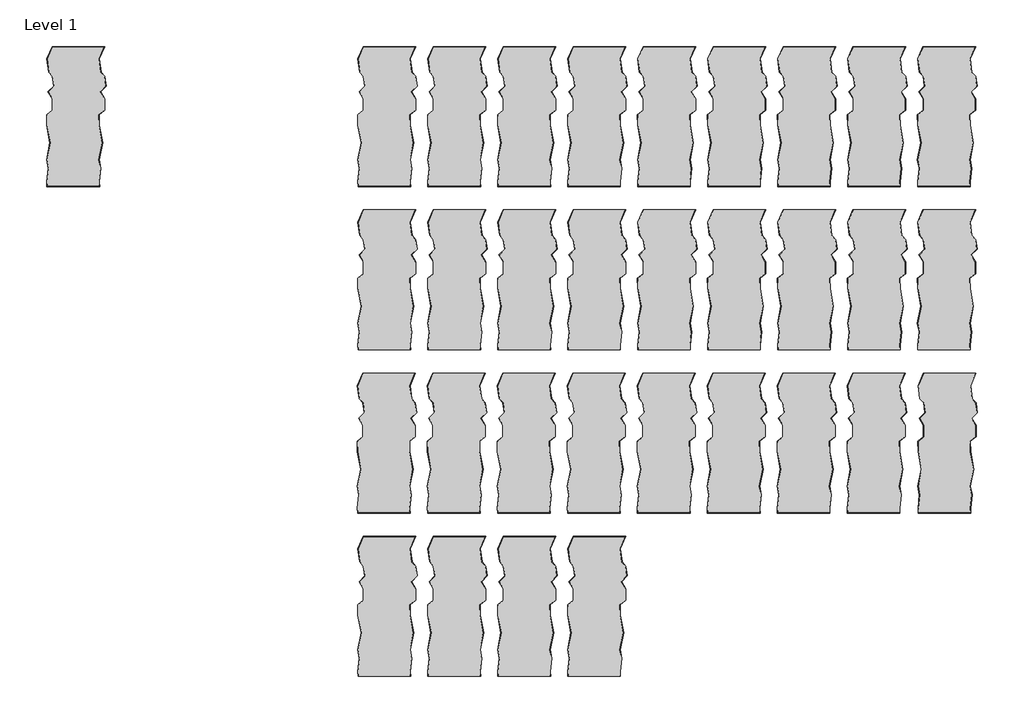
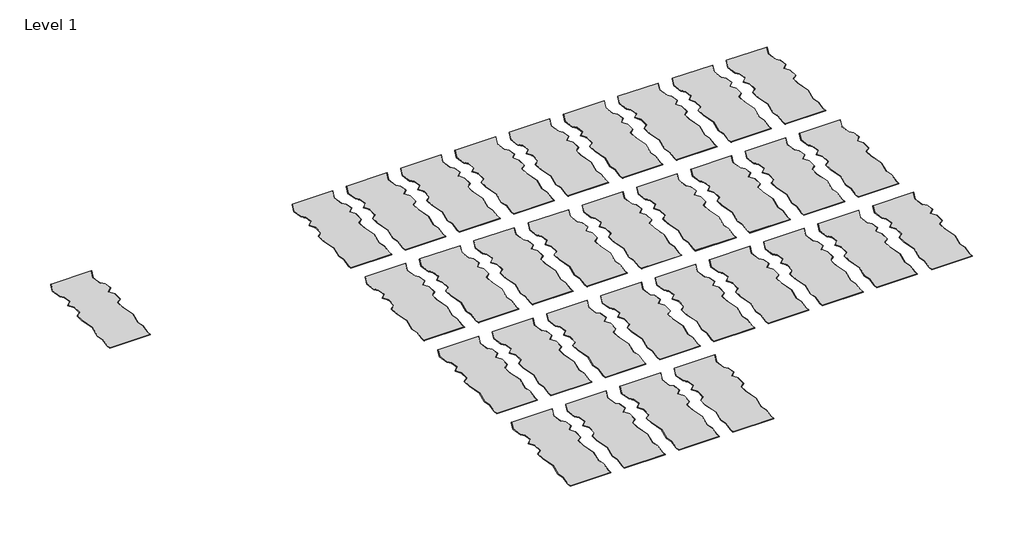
# One storey: 32 proxies.
"""IFC4 building model written with IfcOpenShell, lengths in millimetres."""

from ifc_helpers import new_model, si_unit, origin, place, context, project, spatial, transform, mapped, element, save
from components import proxy_101_frost_12_mm_5003fc06

model = new_model("IFC4")

# Units and contexts
model_context = context("Model", 3, world=origin())
ifc_project = project(units=[si_unit("LENGTHUNIT", "METRE", prefix="MILLI")], contexts=[model_context])

# Site, building, storey
site = spatial("IfcSite", under=ifc_project)
building = spatial("IfcBuilding", under=site)
storey = spatial("IfcBuildingStorey", under=building, Name="Level 1", Elevation=0.0)

# Proxies
placement = place(None, origin())
proxy_101_frost_12_mm_shape = proxy_101_frost_12_mm_5003fc06(model_context)
element("IfcBuildingElementProxy", 1, Name="Wall-Panel-Kirei_USA-EchoLine-Crackle_Panels : 108 Sunshine - 12 mm", ObjectType="Wall-Panel-Kirei_USA-EchoLine-Crackle_Panels : 108 Sunshine - 12 mm", at=placement, inside=storey, context=model_context, shape_type="MappedRepresentation", body=[
    mapped(proxy_101_frost_12_mm_shape, transform((1981.2, -21640.8, 0.0), x_axis=(1.0, 0.0, 0.0), y_axis=(0.0, 1.0, 0.0), z_axis=(0.0, 0.0, 1.0))),
])
element("IfcBuildingElementProxy", 2, Name="Wall-Panel-Kirei_USA-EchoLine-Crackle_Panels : 167 Cinnamon - 12 mm", ObjectType="Wall-Panel-Kirei_USA-EchoLine-Crackle_Panels : 167 Cinnamon - 12 mm", at=placement, inside=storey, context=model_context, shape_type="MappedRepresentation", body=[
    mapped(proxy_101_frost_12_mm_shape, transform((4724.4, -21640.8, 0.0), x_axis=(1.0, 0.0, 0.0), y_axis=(0.0, 1.0, 0.0), z_axis=(0.0, 0.0, 1.0))),
])
element("IfcBuildingElementProxy", 3, Name="Wall-Panel-Kirei_USA-EchoLine-Crackle_Panels : 274 Orchid - 12 mm", ObjectType="Wall-Panel-Kirei_USA-EchoLine-Crackle_Panels : 274 Orchid - 12 mm", at=placement, inside=storey, context=model_context, shape_type="MappedRepresentation", body=[
    mapped(proxy_101_frost_12_mm_shape, transform((8839.2, -21640.8, 0.0), x_axis=(1.0, 0.0, 0.0), y_axis=(0.0, 1.0, 0.0), z_axis=(0.0, 0.0, 1.0))),
])
element("IfcBuildingElementProxy", 4, Name="Wall-Panel-Kirei_USA-EchoLine-Crackle_Panels : 295 Mandarin - 12 mm", ObjectType="Wall-Panel-Kirei_USA-EchoLine-Crackle_Panels : 295 Mandarin - 12 mm", at=placement, inside=storey, context=model_context, shape_type="MappedRepresentation", body=[
    mapped(proxy_101_frost_12_mm_shape, transform((11582.4, -21640.8, 0.0), x_axis=(1.0, 0.0, 0.0), y_axis=(0.0, 1.0, 0.0), z_axis=(0.0, 0.0, 1.0))),
])
element("IfcBuildingElementProxy", 5, Name="Wall-Panel-Kirei_USA-EchoLine-Crackle_Panels : 330 Ivy - 12 mm", ObjectType="Wall-Panel-Kirei_USA-EchoLine-Crackle_Panels : 330 Ivy - 12 mm", at=placement, inside=storey, context=model_context, shape_type="MappedRepresentation", body=[
    mapped(proxy_101_frost_12_mm_shape, transform((609.6, -24841.2, 0.0), x_axis=(1.0, 0.0, 0.0), y_axis=(0.0, 1.0, 0.0), z_axis=(0.0, 0.0, 1.0))),
])
element("IfcBuildingElementProxy", 6, Name="Wall-Panel-Kirei_USA-EchoLine-Crackle_Panels : 338 Jade - 12 mm", ObjectType="Wall-Panel-Kirei_USA-EchoLine-Crackle_Panels : 338 Jade - 12 mm", at=placement, inside=storey, context=model_context, shape_type="MappedRepresentation", body=[
    mapped(proxy_101_frost_12_mm_shape, transform((1981.2, -24841.2, 0.0), x_axis=(1.0, 0.0, 0.0), y_axis=(0.0, 1.0, 0.0), z_axis=(0.0, 0.0, 1.0))),
])
element("IfcBuildingElementProxy", 7, Name="Wall-Panel-Kirei_USA-EchoLine-Crackle_Panels : 349 Vineyard - 12 mm", ObjectType="Wall-Panel-Kirei_USA-EchoLine-Crackle_Panels : 349 Vineyard - 12 mm", at=placement, inside=storey, context=model_context, shape_type="MappedRepresentation", body=[
    mapped(proxy_101_frost_12_mm_shape, transform((3352.8, -24841.2, 0.0), x_axis=(1.0, 0.0, 0.0), y_axis=(0.0, 1.0, 0.0), z_axis=(0.0, 0.0, 1.0))),
])
element("IfcBuildingElementProxy", 8, Name="Wall-Panel-Kirei_USA-EchoLine-Crackle_Panels : 551 Duck Egg - 12 mm", ObjectType="Wall-Panel-Kirei_USA-EchoLine-Crackle_Panels : 551 Duck Egg - 12 mm", at=placement, inside=storey, context=model_context, shape_type="MappedRepresentation", body=[
    mapped(proxy_101_frost_12_mm_shape, transform((10202.3869584, -28041.6, 0.0), x_axis=(1.0, 0.0, 0.0), y_axis=(0.0, 1.0, 0.0), z_axis=(0.0, 0.0, 1.0))),
])
element("IfcBuildingElementProxy", 9, Name="Wall-Panel-Kirei_USA-EchoLine-Crackle_Panels : 579 Pistachio - 12 mm", ObjectType="Wall-Panel-Kirei_USA-EchoLine-Crackle_Panels : 579 Pistachio - 12 mm", at=placement, inside=storey, context=model_context, shape_type="MappedRepresentation", body=[
    mapped(proxy_101_frost_12_mm_shape, transform((11590.8130416, -28041.6, 0.0), x_axis=(1.0, 0.0, 0.0), y_axis=(0.0, 1.0, 0.0), z_axis=(0.0, 0.0, 1.0))),
])
element("IfcBuildingElementProxy", 10, Name="Wall-Panel-Kirei_USA-EchoLine-Crackle_Panels : 633 Pacific - 12 mm", ObjectType="Wall-Panel-Kirei_USA-EchoLine-Crackle_Panels : 633 Pacific - 12 mm", at=placement, inside=storey, context=model_context, shape_type="MappedRepresentation", body=[
    mapped(proxy_101_frost_12_mm_shape, transform((1981.2, -31242.0, 0.0), x_axis=(1.0, 0.0, 0.0), y_axis=(0.0, 1.0, 0.0), z_axis=(0.0, 0.0, 1.0))),
])
element("IfcBuildingElementProxy", 11, Name="Wall-Panel-Kirei_USA-EchoLine-Crackle_Panels : 660 Coronet - 12 mm", ObjectType="Wall-Panel-Kirei_USA-EchoLine-Crackle_Panels : 660 Coronet - 12 mm", at=placement, inside=storey, context=model_context, shape_type="MappedRepresentation", body=[
    mapped(proxy_101_frost_12_mm_shape, transform((3352.8, -31242.0, 0.0), x_axis=(1.0, 0.0, 0.0), y_axis=(0.0, 1.0, 0.0), z_axis=(0.0, 0.0, 1.0))),
])
element("IfcBuildingElementProxy", 12, Name="Wall-Panel-Kirei_USA-EchoLine-Crackle_Panels : 101 Frost - 12 mm", ObjectType="Wall-Panel-Kirei_USA-EchoLine-Crackle_Panels : 101 Frost - 12 mm", at=placement, inside=storey, context=model_context, shape_type="MappedRepresentation", body=[
    mapped(proxy_101_frost_12_mm_shape, transform((609.6, -21640.8, 0.0), x_axis=(1.0, 0.0, 0.0), y_axis=(0.0, 1.0, 0.0), z_axis=(0.0, 0.0, 1.0))),
])
element("IfcBuildingElementProxy", 13, Name="Wall-Panel-Kirei_USA-EchoLine-Crackle_Panels : 101 Frost - 12 mm", ObjectType="Wall-Panel-Kirei_USA-EchoLine-Crackle_Panels : 101 Frost - 12 mm", at=placement, inside=storey, context=model_context, shape_type="MappedRepresentation", body=[
    mapped(proxy_101_frost_12_mm_shape, transform((-5486.4, -21640.8, 0.0), x_axis=(1.0, 0.0, 0.0), y_axis=(0.0, 1.0, 0.0), z_axis=(0.0, 0.0, 1.0))),
])
element("IfcBuildingElementProxy", 14, Name="Wall-Panel-Kirei_USA-EchoLine-Crackle_Panels : 124 Ochre - 12 mm", ObjectType="Wall-Panel-Kirei_USA-EchoLine-Crackle_Panels : 124 Ochre - 12 mm", at=placement, inside=storey, context=model_context, shape_type="MappedRepresentation", body=[
    mapped(proxy_101_frost_12_mm_shape, transform((3352.8, -21640.8, 0.0), x_axis=(1.0, 0.0, 0.0), y_axis=(0.0, 1.0, 0.0), z_axis=(0.0, 0.0, 1.0))),
])
element("IfcBuildingElementProxy", 15, Name="Wall-Panel-Kirei_USA-EchoLine-Crackle_Panels : 193 Rouge - 12 mm", ObjectType="Wall-Panel-Kirei_USA-EchoLine-Crackle_Panels : 193 Rouge - 12 mm", at=placement, inside=storey, context=model_context, shape_type="MappedRepresentation", body=[
    mapped(proxy_101_frost_12_mm_shape, transform((6096.0, -21640.8, 0.0), x_axis=(1.0, 0.0, 0.0), y_axis=(0.0, 1.0, 0.0), z_axis=(0.0, 0.0, 1.0))),
])
element("IfcBuildingElementProxy", 16, Name="Wall-Panel-Kirei_USA-EchoLine-Crackle_Panels : 269 Wine - 12 mm", ObjectType="Wall-Panel-Kirei_USA-EchoLine-Crackle_Panels : 269 Wine - 12 mm", at=placement, inside=storey, context=model_context, shape_type="MappedRepresentation", body=[
    mapped(proxy_101_frost_12_mm_shape, transform((7467.6, -21640.8, 0.0), x_axis=(1.0, 0.0, 0.0), y_axis=(0.0, 1.0, 0.0), z_axis=(0.0, 0.0, 1.0))),
])
element("IfcBuildingElementProxy", 17, Name="Wall-Panel-Kirei_USA-EchoLine-Crackle_Panels : 276 Lavender - 12 mm", ObjectType="Wall-Panel-Kirei_USA-EchoLine-Crackle_Panels : 276 Lavender - 12 mm", at=placement, inside=storey, context=model_context, shape_type="MappedRepresentation", body=[
    mapped(proxy_101_frost_12_mm_shape, transform((10210.8, -21640.8, 0.0), x_axis=(1.0, 0.0, 0.0), y_axis=(0.0, 1.0, 0.0), z_axis=(0.0, 0.0, 1.0))),
])
element("IfcBuildingElementProxy", 18, Name="Wall-Panel-Kirei_USA-EchoLine-Crackle_Panels : 365 Navy - 12 mm", ObjectType="Wall-Panel-Kirei_USA-EchoLine-Crackle_Panels : 365 Navy - 12 mm", at=placement, inside=storey, context=model_context, shape_type="MappedRepresentation", body=[
    mapped(proxy_101_frost_12_mm_shape, transform((4724.4, -24841.2, 0.0), x_axis=(1.0, 0.0, 0.0), y_axis=(0.0, 1.0, 0.0), z_axis=(0.0, 0.0, 1.0))),
])
element("IfcBuildingElementProxy", 19, Name="Wall-Panel-Kirei_USA-EchoLine-Crackle_Panels : 381 Lime Splice - 12 mm", ObjectType="Wall-Panel-Kirei_USA-EchoLine-Crackle_Panels : 381 Lime Splice - 12 mm", at=placement, inside=storey, context=model_context, shape_type="MappedRepresentation", body=[
    mapped(proxy_101_frost_12_mm_shape, transform((6096.0, -24841.2, 0.0), x_axis=(1.0, 0.0, 0.0), y_axis=(0.0, 1.0, 0.0), z_axis=(0.0, 0.0, 1.0))),
])
element("IfcBuildingElementProxy", 20, Name="Wall-Panel-Kirei_USA-EchoLine-Crackle_Panels : 384 Olive - 12 mm", ObjectType="Wall-Panel-Kirei_USA-EchoLine-Crackle_Panels : 384 Olive - 12 mm", at=placement, inside=storey, context=model_context, shape_type="MappedRepresentation", body=[
    mapped(proxy_101_frost_12_mm_shape, transform((7467.6, -24841.2, 0.0), x_axis=(1.0, 0.0, 0.0), y_axis=(0.0, 1.0, 0.0), z_axis=(0.0, 0.0, 1.0))),
])
element("IfcBuildingElementProxy", 21, Name="Wall-Panel-Kirei_USA-EchoLine-Crackle_Panels : 402 Pebble - 12 mm", ObjectType="Wall-Panel-Kirei_USA-EchoLine-Crackle_Panels : 402 Pebble - 12 mm", at=placement, inside=storey, context=model_context, shape_type="MappedRepresentation", body=[
    mapped(proxy_101_frost_12_mm_shape, transform((8839.2, -24841.2, 0.0), x_axis=(1.0, 0.0, 0.0), y_axis=(0.0, 1.0, 0.0), z_axis=(0.0, 0.0, 1.0))),
])
element("IfcBuildingElementProxy", 22, Name="Wall-Panel-Kirei_USA-EchoLine-Crackle_Panels : 442 Gray - 12 mm", ObjectType="Wall-Panel-Kirei_USA-EchoLine-Crackle_Panels : 442 Gray - 12 mm", at=placement, inside=storey, context=model_context, shape_type="MappedRepresentation", body=[
    mapped(proxy_101_frost_12_mm_shape, transform((10210.8, -24841.2, 0.0), x_axis=(1.0, 0.0, 0.0), y_axis=(0.0, 1.0, 0.0), z_axis=(0.0, 0.0, 1.0))),
])
element("IfcBuildingElementProxy", 23, Name="Wall-Panel-Kirei_USA-EchoLine-Crackle_Panels : 444 Smoke - 12 mm", ObjectType="Wall-Panel-Kirei_USA-EchoLine-Crackle_Panels : 444 Smoke - 12 mm", at=placement, inside=storey, context=model_context, shape_type="MappedRepresentation", body=[
    mapped(proxy_101_frost_12_mm_shape, transform((11582.4, -24841.2, 0.0), x_axis=(1.0, 0.0, 0.0), y_axis=(0.0, 1.0, 0.0), z_axis=(0.0, 0.0, 1.0))),
])
element("IfcBuildingElementProxy", 24, Name="Wall-Panel-Kirei_USA-EchoLine-Crackle_Panels : 447 Slate - 12 mm", ObjectType="Wall-Panel-Kirei_USA-EchoLine-Crackle_Panels : 447 Slate - 12 mm", at=placement, inside=storey, context=model_context, shape_type="MappedRepresentation", body=[
    mapped(proxy_101_frost_12_mm_shape, transform((601.1869584, -28041.6, 0.0), x_axis=(1.0, 0.0, 0.0), y_axis=(0.0, 1.0, 0.0), z_axis=(0.0, 0.0, 1.0))),
])
element("IfcBuildingElementProxy", 25, Name="Wall-Panel-Kirei_USA-EchoLine-Crackle_Panels : 454 Mushroom - 12 mm", ObjectType="Wall-Panel-Kirei_USA-EchoLine-Crackle_Panels : 454 Mushroom - 12 mm", at=placement, inside=storey, context=model_context, shape_type="MappedRepresentation", body=[
    mapped(proxy_101_frost_12_mm_shape, transform((1972.7869584, -28041.6, 0.0), x_axis=(1.0, 0.0, 0.0), y_axis=(0.0, 1.0, 0.0), z_axis=(0.0, 0.0, 1.0))),
])
element("IfcBuildingElementProxy", 26, Name="Wall-Panel-Kirei_USA-EchoLine-Crackle_Panels : 468 Vanilla - 12 mm", ObjectType="Wall-Panel-Kirei_USA-EchoLine-Crackle_Panels : 468 Vanilla - 12 mm", at=placement, inside=storey, context=model_context, shape_type="MappedRepresentation", body=[
    mapped(proxy_101_frost_12_mm_shape, transform((3344.3869584, -28041.6, 0.0), x_axis=(1.0, 0.0, 0.0), y_axis=(0.0, 1.0, 0.0), z_axis=(0.0, 0.0, 1.0))),
])
element("IfcBuildingElementProxy", 27, Name="Wall-Panel-Kirei_USA-EchoLine-Crackle_Panels : 487 Blush - 12 mm", ObjectType="Wall-Panel-Kirei_USA-EchoLine-Crackle_Panels : 487 Blush - 12 mm", at=placement, inside=storey, context=model_context, shape_type="MappedRepresentation", body=[
    mapped(proxy_101_frost_12_mm_shape, transform((4715.9869584, -28041.6, 0.0), x_axis=(1.0, 0.0, 0.0), y_axis=(0.0, 1.0, 0.0), z_axis=(0.0, 0.0, 1.0))),
])
element("IfcBuildingElementProxy", 28, Name="Wall-Panel-Kirei_USA-EchoLine-Crackle_Panels : 500 White - 12 mm", ObjectType="Wall-Panel-Kirei_USA-EchoLine-Crackle_Panels : 500 White - 12 mm", at=placement, inside=storey, context=model_context, shape_type="MappedRepresentation", body=[
    mapped(proxy_101_frost_12_mm_shape, transform((6087.5869584, -28041.6, 0.0), x_axis=(1.0, 0.0, 0.0), y_axis=(0.0, 1.0, 0.0), z_axis=(0.0, 0.0, 1.0))),
])
element("IfcBuildingElementProxy", 29, Name="Wall-Panel-Kirei_USA-EchoLine-Crackle_Panels : 542 Black - 12 mm", ObjectType="Wall-Panel-Kirei_USA-EchoLine-Crackle_Panels : 542 Black - 12 mm", at=placement, inside=storey, context=model_context, shape_type="MappedRepresentation", body=[
    mapped(proxy_101_frost_12_mm_shape, transform((7459.1869584, -28041.6, 0.0), x_axis=(1.0, 0.0, 0.0), y_axis=(0.0, 1.0, 0.0), z_axis=(0.0, 0.0, 1.0))),
])
element("IfcBuildingElementProxy", 30, Name="Wall-Panel-Kirei_USA-EchoLine-Crackle_Panels : 550 Onyx - 12 mm", ObjectType="Wall-Panel-Kirei_USA-EchoLine-Crackle_Panels : 550 Onyx - 12 mm", at=placement, inside=storey, context=model_context, shape_type="MappedRepresentation", body=[
    mapped(proxy_101_frost_12_mm_shape, transform((8830.7869584, -28041.6, 0.0), x_axis=(1.0, 0.0, 0.0), y_axis=(0.0, 1.0, 0.0), z_axis=(0.0, 0.0, 1.0))),
])
element("IfcBuildingElementProxy", 31, Name="Wall-Panel-Kirei_USA-EchoLine-Crackle_Panels : 580 Sage - 12 mm", ObjectType="Wall-Panel-Kirei_USA-EchoLine-Crackle_Panels : 580 Sage - 12 mm", at=placement, inside=storey, context=model_context, shape_type="MappedRepresentation", body=[
    mapped(proxy_101_frost_12_mm_shape, transform((609.6, -31242.0, 0.0), x_axis=(1.0, 0.0, 0.0), y_axis=(0.0, 1.0, 0.0), z_axis=(0.0, 0.0, 1.0))),
])
element("IfcBuildingElementProxy", 32, Name="Wall-Panel-Kirei_USA-EchoLine-Crackle_Panels : 908 Cream - 12 mm", ObjectType="Wall-Panel-Kirei_USA-EchoLine-Crackle_Panels : 908 Cream - 12 mm", at=placement, inside=storey, context=model_context, shape_type="MappedRepresentation", body=[
    mapped(proxy_101_frost_12_mm_shape, transform((4724.4, -31242.0, 0.0), x_axis=(1.0, 0.0, 0.0), y_axis=(0.0, 1.0, 0.0), z_axis=(0.0, 0.0, 1.0))),
])

save(model, "model.ifc")
